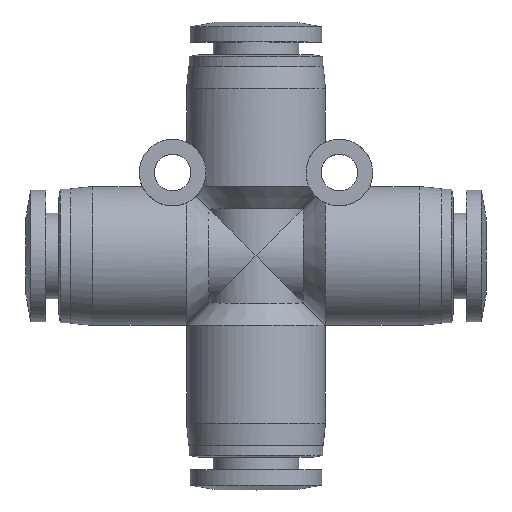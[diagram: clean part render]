
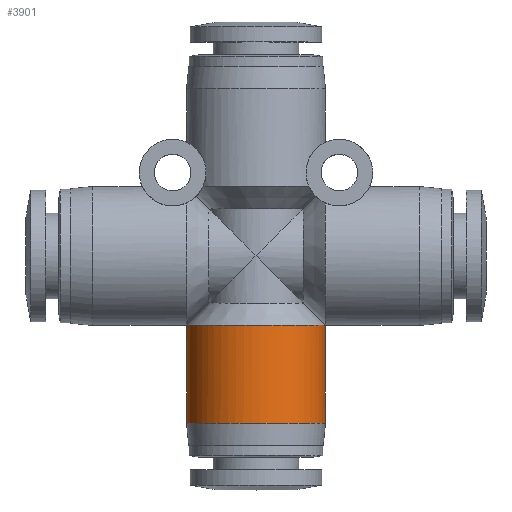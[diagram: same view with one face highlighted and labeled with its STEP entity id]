
A CAD part, top view. The second image highlights one B-rep face of the part: STEP entity #3901.
In plain terms, the highlighted cylindrical face has radius 6.25 mm (diameter 12.5 mm), a partial arc.
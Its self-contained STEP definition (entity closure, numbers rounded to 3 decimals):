
#2 = CARTESIAN_POINT ( 'NONE',  ( -6.25, -15.05, 0.818 ) ) ;
#131 = LINE ( 'NONE', #4698, #4764 ) ;
#146 = DIRECTION ( 'NONE',  ( -1., 0., 0. ) ) ;
#506 = CARTESIAN_POINT ( 'NONE',  ( 6.25, -15.05, 0.818 ) ) ;
#678 = CYLINDRICAL_SURFACE ( 'NONE', #2813, 6.25 ) ;
#717 = CARTESIAN_POINT ( 'NONE',  ( -6.25, -6.25, 0.818 ) ) ;
#737 = CARTESIAN_POINT ( 'NONE',  ( 6.25, -15.05, 0. ) ) ;
#972 = CARTESIAN_POINT ( 'NONE',  ( -3.841, -15.05, 4.998 ) ) ;
#986 = EDGE_CURVE ( 'NONE', #6559, #6520, #1779, .T. ) ;
#1010 = CARTESIAN_POINT ( 'NONE',  ( -4.998, -15.05, 3.841 ) ) ;
#1078 = CARTESIAN_POINT ( 'NONE',  ( -5.461, -15.05, 3.148 ) ) ;
#1163 = CARTESIAN_POINT ( 'NONE',  ( 1.636, -6.25, 6.087 ) ) ;
#1223 = CARTESIAN_POINT ( 'NONE',  ( 6.25, -6.25, 0.818 ) ) ;
#1429 = VECTOR ( 'NONE', #1662, 1000. ) ;
#1575 = DIRECTION ( 'NONE',  ( 0., 1., 0. ) ) ;
#1662 = DIRECTION ( 'NONE',  ( 0., 1., 0. ) ) ;
#1692 = LINE ( 'NONE', #6267, #1429 ) ;
#1720 = CARTESIAN_POINT ( 'NONE',  ( -4.998, -6.25, 3.841 ) ) ;
#1779 = B_SPLINE_CURVE_WITH_KNOTS ( 'NONE', 3,
 ( #4564, #506, #4054, #4676, #6046, #6112, #3064, #4129, #2558, #5608, #2992, #5647, #972, #1010, #1078, #5036, #2, #5105 ),
 .UNSPECIFIED., .F., .F.,
 ( 4, 2, 2, 2, 2, 2, 2, 2, 4 ),
 ( 0.5, 0.563, 0.625, 0.688, 0.75, 0.813, 0.875, 0.938, 1. ),
 .UNSPECIFIED. ) ;
#2110 = ORIENTED_EDGE ( 'NONE', *, *, #2638, .F. ) ;
#2144 = EDGE_CURVE ( 'NONE', #6520, #3182, #131, .T. ) ;
#2206 = ORIENTED_EDGE ( 'NONE', *, *, #2593, .T. ) ;
#2293 = CARTESIAN_POINT ( 'NONE',  ( -3.148, -6.25, 5.461 ) ) ;
#2558 = CARTESIAN_POINT ( 'NONE',  ( 0.818, -15.05, 6.25 ) ) ;
#2593 = EDGE_CURVE ( 'NONE', #6559, #5952, #1692, .T. ) ;
#2638 = EDGE_CURVE ( 'NONE', #3182, #5952, #2666, .T. ) ;
#2652 = ORIENTED_EDGE ( 'NONE', *, *, #2144, .F. ) ;
#2666 = B_SPLINE_CURVE_WITH_KNOTS ( 'NONE', 3,
 ( #6359, #717, #5761, #6326, #1720, #3741, #2293, #3202, #4346, #3806, #1163, #3236, #3770, #5255, #4241, #5819, #1223, #2774 ),
 .UNSPECIFIED., .F., .F.,
 ( 4, 2, 2, 2, 2, 2, 2, 2, 4 ),
 ( 0., 0.125, 0.25, 0.375, 0.5, 0.625, 0.75, 0.875, 1. ),
 .UNSPECIFIED. ) ;
#2774 = CARTESIAN_POINT ( 'NONE',  ( 6.25, -6.25, 0. ) ) ;
#2813 = AXIS2_PLACEMENT_3D ( 'NONE', #6350, #3761, #146 ) ;
#2992 = CARTESIAN_POINT ( 'NONE',  ( -1.636, -15.05, 6.087 ) ) ;
#3064 = CARTESIAN_POINT ( 'NONE',  ( 3.148, -15.05, 5.461 ) ) ;
#3182 = VERTEX_POINT ( 'NONE', #3704 ) ;
#3202 = CARTESIAN_POINT ( 'NONE',  ( -1.636, -6.25, 6.087 ) ) ;
#3236 = CARTESIAN_POINT ( 'NONE',  ( 3.148, -6.25, 5.461 ) ) ;
#3704 = CARTESIAN_POINT ( 'NONE',  ( -6.25, -6.25, 0. ) ) ;
#3741 = CARTESIAN_POINT ( 'NONE',  ( -3.841, -6.25, 4.998 ) ) ;
#3759 = CARTESIAN_POINT ( 'NONE',  ( -6.25, -15.05, 0. ) ) ;
#3761 = DIRECTION ( 'NONE',  ( 0., 1., 0. ) ) ;
#3770 = CARTESIAN_POINT ( 'NONE',  ( 3.841, -6.25, 4.998 ) ) ;
#3806 = CARTESIAN_POINT ( 'NONE',  ( 0.818, -6.25, 6.25 ) ) ;
#3901 = ADVANCED_FACE ( 'NONE', ( #5216 ), #678, .T. ) ;
#4054 = CARTESIAN_POINT ( 'NONE',  ( 6.087, -15.05, 1.636 ) ) ;
#4129 = CARTESIAN_POINT ( 'NONE',  ( 1.636, -15.05, 6.087 ) ) ;
#4241 = CARTESIAN_POINT ( 'NONE',  ( 5.461, -6.25, 3.148 ) ) ;
#4346 = CARTESIAN_POINT ( 'NONE',  ( -0.818, -6.25, 6.25 ) ) ;
#4439 = CARTESIAN_POINT ( 'NONE',  ( 6.25, -6.25, 0. ) ) ;
#4564 = CARTESIAN_POINT ( 'NONE',  ( 6.25, -15.05, 0. ) ) ;
#4676 = CARTESIAN_POINT ( 'NONE',  ( 5.461, -15.05, 3.148 ) ) ;
#4698 = CARTESIAN_POINT ( 'NONE',  ( -6.25, -10.65, 0. ) ) ;
#4764 = VECTOR ( 'NONE', #1575, 1000. ) ;
#5036 = CARTESIAN_POINT ( 'NONE',  ( -6.087, -15.05, 1.636 ) ) ;
#5105 = CARTESIAN_POINT ( 'NONE',  ( -6.25, -15.05, 0. ) ) ;
#5216 = FACE_OUTER_BOUND ( 'NONE', #5932, .T. ) ;
#5255 = CARTESIAN_POINT ( 'NONE',  ( 4.998, -6.25, 3.841 ) ) ;
#5288 = ORIENTED_EDGE ( 'NONE', *, *, #986, .F. ) ;
#5608 = CARTESIAN_POINT ( 'NONE',  ( -0.818, -15.05, 6.25 ) ) ;
#5647 = CARTESIAN_POINT ( 'NONE',  ( -3.148, -15.05, 5.461 ) ) ;
#5761 = CARTESIAN_POINT ( 'NONE',  ( -6.087, -6.25, 1.636 ) ) ;
#5819 = CARTESIAN_POINT ( 'NONE',  ( 6.087, -6.25, 1.636 ) ) ;
#5932 = EDGE_LOOP ( 'NONE', ( #5288, #2206, #2110, #2652 ) ) ;
#5952 = VERTEX_POINT ( 'NONE', #4439 ) ;
#6046 = CARTESIAN_POINT ( 'NONE',  ( 4.998, -15.05, 3.841 ) ) ;
#6112 = CARTESIAN_POINT ( 'NONE',  ( 3.841, -15.05, 4.998 ) ) ;
#6267 = CARTESIAN_POINT ( 'NONE',  ( 6.25, -10.65, 0. ) ) ;
#6326 = CARTESIAN_POINT ( 'NONE',  ( -5.461, -6.25, 3.148 ) ) ;
#6350 = CARTESIAN_POINT ( 'NONE',  ( 0., -10.65, 0. ) ) ;
#6359 = CARTESIAN_POINT ( 'NONE',  ( -6.25, -6.25, 0. ) ) ;
#6520 = VERTEX_POINT ( 'NONE', #3759 ) ;
#6559 = VERTEX_POINT ( 'NONE', #737 ) ;
